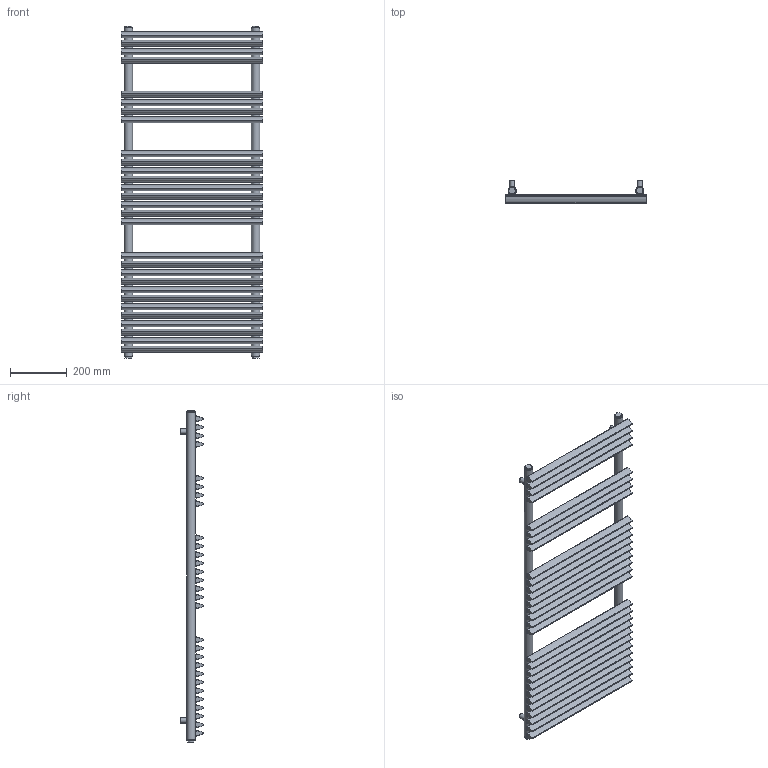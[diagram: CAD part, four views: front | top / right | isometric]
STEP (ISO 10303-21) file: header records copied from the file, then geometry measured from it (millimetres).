
FILE_DESCRIPTION(/* description */ (''),/* implementation_level */ '2;1');
FILE_NAME(/* name */ 'C:\Grzejniki\13DLUXRAD\łazienkowe\CALIDO\CALIDO 1160x500.iam.stp',/* time_stamp */ '2016-06-28T17:34:21+02:00',/* author */ ('m.szydziak'),/* organization */ (''),/* preprocessor_version */ 'ST-DEVELOPER v16.5',/* originating_system */ 'Autodesk Inventor 2017',/* authorisation */ '');
FILE_SCHEMA (('AUTOMOTIVE_DESIGN { 1 0 10303 214 3 1 1 }'));
Length unit declared in the file: millimetre
Products named in the file (5): CALIDO 1160x500; fi30x1,5x1160; 30x20x1,2x500; uchwyt stały; korek
Assembly tree (39 placements, depth 2):
  CALIDO 1160x500
    fi30x1,5x1160  x2
    30x20x1,2x500  x29
    uchwyt stały  x4
    korek  x4
Bounding box: 500 x 81.98 x 1172 mm (x, y, z)
Volume: 1667322.6 mm3; surface area: 2664673.9 mm2
Topology: 39 solids, 39 shells, 614 faces, 1660 edges, 1186 vertices
Faces by surface type: cylinder 426, plane 188
Full cylindrical faces by diameter (mm): 5 x58, 6 x58, 15 x4, 18 x4, 18.631 x4, 24 x4, 27 x2, 30 x2
Entity records: 4696 total; most frequent: CARTESIAN_POINT 2546, DIRECTION 356, ORIENTED_EDGE 344, EDGE_LOOP 178, EDGE_CURVE 172, AXIS2_PLACEMENT_3D 161, VERTEX_POINT 150, FACE_BOUND 106
